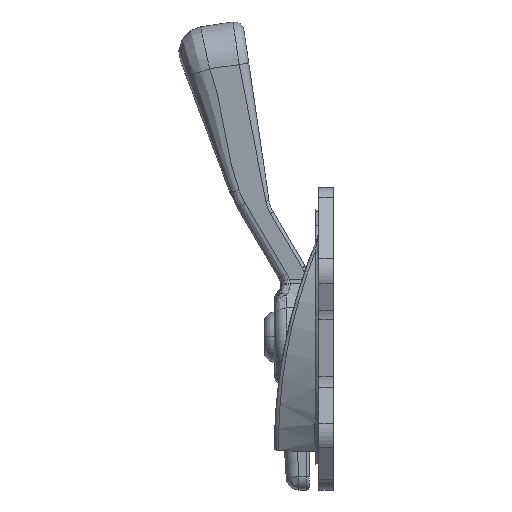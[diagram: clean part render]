
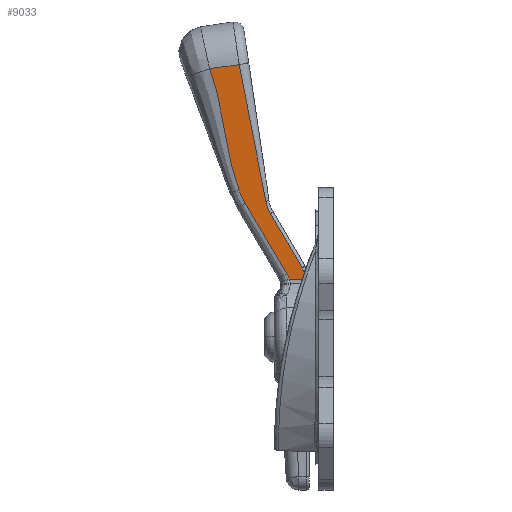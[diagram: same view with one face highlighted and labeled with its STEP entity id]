
A CAD part, left-side view. The second image highlights one B-rep face of the part: STEP entity #9033.
In plain terms, the highlighted planar face has unit normal (-0.996, 0, -0.087).
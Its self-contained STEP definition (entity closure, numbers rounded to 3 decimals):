
#325 = EDGE_CURVE ( 'NONE', #16971, #8426, #3254, .T. ) ;
#777 = DIRECTION ( 'NONE',  ( -0.075, 0.506, 0.859 ) ) ;
#1142 = CARTESIAN_POINT ( 'NONE',  ( -6.661, 6.759, 19.391 ) ) ;
#1176 = CARTESIAN_POINT ( 'NONE',  ( -9., 22.105, 46.217 ) ) ;
#1535 = DIRECTION ( 'NONE',  ( 0.087, 0., -0.996 ) ) ;
#1856 = VERTEX_POINT ( 'NONE', #12837 ) ;
#1888 = CARTESIAN_POINT ( 'NONE',  ( -6.548, 6.302, 18.099 ) ) ;
#2182 = B_SPLINE_CURVE_WITH_KNOTS ( 'NONE', 3,
 ( #6891, #4317, #14823, #7008 ),
 .UNSPECIFIED., .F., .F.,
 ( 4, 4 ),
 ( -0.027, -0.001 ),
 .UNSPECIFIED. ) ;
#2192 = CARTESIAN_POINT ( 'NONE',  ( -12.43, 22.026, 85.559 ) ) ;
#2442 = VERTEX_POINT ( 'NONE', #4347 ) ;
#2611 = CARTESIAN_POINT ( 'NONE',  ( -8.752, 20.889, 43.37 ) ) ;
#2773 = CARTESIAN_POINT ( 'NONE',  ( -8.346, 12.245, 38.722 ) ) ;
#2816 = PLANE ( 'NONE',  #12245 ) ;
#2865 = CARTESIAN_POINT ( 'NONE',  ( -6.548, 6.302, 18.099 ) ) ;
#3040 = ORIENTED_EDGE ( 'NONE', *, *, #9521, .T. ) ;
#3112 = CARTESIAN_POINT ( 'NONE',  ( -8.693, 13.65, 42.7 ) ) ;
#3254 = B_SPLINE_CURVE_WITH_KNOTS ( 'NONE', 3,
 ( #7498, #16606, #11382, #2192 ),
 .UNSPECIFIED., .F., .F.,
 ( 4, 4 ),
 ( -0.048, -0.004 ),
 .UNSPECIFIED. ) ;
#3361 = EDGE_CURVE ( 'NONE', #8426, #1856, #11015, .T. ) ;
#3673 = CARTESIAN_POINT ( 'NONE',  ( -6.867, 2.246, 21.755 ) ) ;
#3677 = CARTESIAN_POINT ( 'NONE',  ( -11.263, 26.714, 72.18 ) ) ;
#3998 = EDGE_CURVE ( 'NONE', #13417, #4657, #13412, .T. ) ;
#4317 = CARTESIAN_POINT ( 'NONE',  ( -7.994, 15.771, 34.684 ) ) ;
#4347 = CARTESIAN_POINT ( 'NONE',  ( -8.346, 12.245, 38.722 ) ) ;
#4360 = VERTEX_POINT ( 'NONE', #13633 ) ;
#4580 = ORIENTED_EDGE ( 'NONE', *, *, #11865, .T. ) ;
#4595 = ORIENTED_EDGE ( 'NONE', *, *, #10952, .T. ) ;
#4657 = VERTEX_POINT ( 'NONE', #1888 ) ;
#5079 = CARTESIAN_POINT ( 'NONE',  ( -6.867, 2.246, 21.755 ) ) ;
#5163 = ORIENTED_EDGE ( 'NONE', *, *, #3361, .T. ) ;
#5323 = VERTEX_POINT ( 'NONE', #14973 ) ;
#5403 = CARTESIAN_POINT ( 'NONE',  ( -8.57, 13.442, 41.291 ) ) ;
#5471 = EDGE_CURVE ( 'NONE', #10918, #2442, #10945, .T. ) ;
#5493 = CARTESIAN_POINT ( 'NONE',  ( -6.553, 1.053, 18.159 ) ) ;
#6231 = CARTESIAN_POINT ( 'NONE',  ( -12.43, 22.026, 85.559 ) ) ;
#6600 = CARTESIAN_POINT ( 'NONE',  ( -6.713, 7.108, 19.983 ) ) ;
#6698 = ORIENTED_EDGE ( 'NONE', *, *, #14109, .T. ) ;
#6891 = CARTESIAN_POINT ( 'NONE',  ( -8.635, 20.103, 42.035 ) ) ;
#6905 =( BOUNDED_CURVE ( )  B_SPLINE_CURVE ( 3, ( #2773, #10622, #5403, #14538 ),
 .UNSPECIFIED., .F., .F. ) 
 B_SPLINE_CURVE_WITH_KNOTS ( ( 4, 4 ),
 ( 1.038, 1.424 ),
 .UNSPECIFIED. ) 
 CURVE ( )  GEOMETRIC_REPRESENTATION_ITEM ( )  RATIONAL_B_SPLINE_CURVE ( ( 1., 0.988, 0.988, 1. ) ) 
 REPRESENTATION_ITEM ( '' )  );
#6982 = EDGE_CURVE ( 'NONE', #1856, #9887, #12401, .T. ) ;
#7008 = CARTESIAN_POINT ( 'NONE',  ( -6.713, 7.108, 19.983 ) ) ;
#7217 = CARTESIAN_POINT ( 'NONE',  ( -12.321, 31.288, 84.311 ) ) ;
#7498 = CARTESIAN_POINT ( 'NONE',  ( -8.693, 13.65, 42.7 ) ) ;
#7776 = CARTESIAN_POINT ( 'NONE',  ( -12.321, 31.288, 84.311 ) ) ;
#7811 = ORIENTED_EDGE ( 'NONE', *, *, #3998, .T. ) ;
#7954 = CARTESIAN_POINT ( 'NONE',  ( -6.548, 6.302, 18.099 ) ) ;
#7977 =( BOUNDED_CURVE ( )  B_SPLINE_CURVE ( 3, ( #11482, #14084, #11531, #3673 ),
 .UNSPECIFIED., .F., .F. ) 
 B_SPLINE_CURVE_WITH_KNOTS ( ( 4, 4 ),
 ( 4.821, 5.245 ),
 .UNSPECIFIED. ) 
 CURVE ( )  GEOMETRIC_REPRESENTATION_ITEM ( )  RATIONAL_B_SPLINE_CURVE ( ( 1., 0.985, 0.985, 1. ) ) 
 REPRESENTATION_ITEM ( '' )  );
#8113 = CARTESIAN_POINT ( 'NONE',  ( -6.55, 4.552, 18.119 ) ) ;
#8192 =( BOUNDED_CURVE ( )  B_SPLINE_CURVE ( 3, ( #16972, #15641, #2611, #11790 ),
 .UNSPECIFIED., .F., .F. ) 
 B_SPLINE_CURVE_WITH_KNOTS ( ( 4, 4 ),
 ( 1.931, 2.103 ),
 .UNSPECIFIED. ) 
 CURVE ( )  GEOMETRIC_REPRESENTATION_ITEM ( )  RATIONAL_B_SPLINE_CURVE ( ( 1., 0.998, 0.998, 1. ) ) 
 REPRESENTATION_ITEM ( '' )  );
#8426 = VERTEX_POINT ( 'NONE', #6231 ) ;
#9033 = ADVANCED_FACE ( 'NONE', ( #16883 ), #2816, .F. ) ;
#9078 = CARTESIAN_POINT ( 'NONE',  ( -10.058, 26.679, 58.349 ) ) ;
#9085 = ORIENTED_EDGE ( 'NONE', *, *, #13806, .T. ) ;
#9196 = ORIENTED_EDGE ( 'NONE', *, *, #6982, .T. ) ;
#9427 = DIRECTION ( 'NONE',  ( 0.996, 0., 0.087 ) ) ;
#9521 = EDGE_CURVE ( 'NONE', #4657, #5323, #16945, .T. ) ;
#9887 = VERTEX_POINT ( 'NONE', #10500 ) ;
#10410 = CARTESIAN_POINT ( 'NONE',  ( -6.713, 7.108, 19.983 ) ) ;
#10500 = CARTESIAN_POINT ( 'NONE',  ( -9., 22.105, 46.217 ) ) ;
#10622 = CARTESIAN_POINT ( 'NONE',  ( -8.453, 12.967, 39.949 ) ) ;
#10651 = ORIENTED_EDGE ( 'NONE', *, *, #5471, .T. ) ;
#10865 = EDGE_LOOP ( 'NONE', ( #5163, #9196, #4595, #9085, #7811, #3040, #6698, #10651, #4580, #14794 ) ) ;
#10918 = VERTEX_POINT ( 'NONE', #5079 ) ;
#10945 = LINE ( 'NONE', #11349, #14383 ) ;
#10952 = EDGE_CURVE ( 'NONE', #9887, #4360, #8192, .T. ) ;
#11015 = B_SPLINE_CURVE_WITH_KNOTS ( 'NONE', 3,
 ( #12433, #11113, #15023, #7217 ),
 .UNSPECIFIED., .F., .F.,
 ( 4, 4 ),
 ( 0.149, 0.609 ),
 .UNSPECIFIED. ) ;
#11113 = CARTESIAN_POINT ( 'NONE',  ( -12.394, 25.113, 85.143 ) ) ;
#11349 = CARTESIAN_POINT ( 'NONE',  ( -7.619, 7.326, 30.376 ) ) ;
#11382 = CARTESIAN_POINT ( 'NONE',  ( -11.176, 19.902, 71.175 ) ) ;
#11482 = CARTESIAN_POINT ( 'NONE',  ( -6.553, 1.053, 18.159 ) ) ;
#11531 = CARTESIAN_POINT ( 'NONE',  ( -6.771, 1.595, 20.65 ) ) ;
#11790 = CARTESIAN_POINT ( 'NONE',  ( -8.635, 20.103, 42.035 ) ) ;
#11865 = EDGE_CURVE ( 'NONE', #2442, #16971, #6905, .T. ) ;
#12245 = AXIS2_PLACEMENT_3D ( 'NONE', #14582, #9427, #1535 ) ;
#12401 = B_SPLINE_CURVE_WITH_KNOTS ( 'NONE', 3,
 ( #7776, #3677, #9078, #1176 ),
 .UNSPECIFIED., .F., .F.,
 ( 4, 4 ),
 ( -0.042, -0.003 ),
 .UNSPECIFIED. ) ;
#12433 = CARTESIAN_POINT ( 'NONE',  ( -12.43, 22.026, 85.559 ) ) ;
#12837 = CARTESIAN_POINT ( 'NONE',  ( -12.321, 31.288, 84.311 ) ) ;
#13345 = CARTESIAN_POINT ( 'NONE',  ( -6.552, 2.803, 18.139 ) ) ;
#13412 =( BOUNDED_CURVE ( )  B_SPLINE_CURVE ( 3, ( #6600, #1142, #15724, #7954 ),
 .UNSPECIFIED., .F., .F. ) 
 B_SPLINE_CURVE_WITH_KNOTS ( ( 4, 4 ),
 ( 4.18, 4.437 ),
 .UNSPECIFIED. ) 
 CURVE ( )  GEOMETRIC_REPRESENTATION_ITEM ( )  RATIONAL_B_SPLINE_CURVE ( ( 1., 0.995, 0.995, 1. ) ) 
 REPRESENTATION_ITEM ( '' )  );
#13417 = VERTEX_POINT ( 'NONE', #10410 ) ;
#13633 = CARTESIAN_POINT ( 'NONE',  ( -8.635, 20.103, 42.035 ) ) ;
#13806 = EDGE_CURVE ( 'NONE', #4360, #13417, #2182, .T. ) ;
#14084 = CARTESIAN_POINT ( 'NONE',  ( -6.665, 1.191, 19.433 ) ) ;
#14109 = EDGE_CURVE ( 'NONE', #5323, #10918, #7977, .T. ) ;
#14383 = VECTOR ( 'NONE', #777, 1000. ) ;
#14538 = CARTESIAN_POINT ( 'NONE',  ( -8.693, 13.65, 42.7 ) ) ;
#14582 = CARTESIAN_POINT ( 'NONE',  ( -4.933, 60., -0.43 ) ) ;
#14794 = ORIENTED_EDGE ( 'NONE', *, *, #325, .T. ) ;
#14823 = CARTESIAN_POINT ( 'NONE',  ( -7.353, 11.439, 27.333 ) ) ;
#14973 = CARTESIAN_POINT ( 'NONE',  ( -6.553, 1.053, 18.159 ) ) ;
#15023 = CARTESIAN_POINT ( 'NONE',  ( -12.357, 28.201, 84.727 ) ) ;
#15641 = CARTESIAN_POINT ( 'NONE',  ( -8.873, 21.558, 44.767 ) ) ;
#15724 = CARTESIAN_POINT ( 'NONE',  ( -6.606, 6.489, 18.76 ) ) ;
#16606 = CARTESIAN_POINT ( 'NONE',  ( -9.947, 15.774, 57.084 ) ) ;
#16883 = FACE_OUTER_BOUND ( 'NONE', #10865, .T. ) ;
#16945 = B_SPLINE_CURVE_WITH_KNOTS ( 'NONE', 3,
 ( #2865, #8113, #13345, #5493 ),
 .UNSPECIFIED., .F., .F.,
 ( 4, 4 ),
 ( 0.003, 0.008 ),
 .UNSPECIFIED. ) ;
#16971 = VERTEX_POINT ( 'NONE', #3112 ) ;
#16972 = CARTESIAN_POINT ( 'NONE',  ( -9., 22.105, 46.217 ) ) ;
